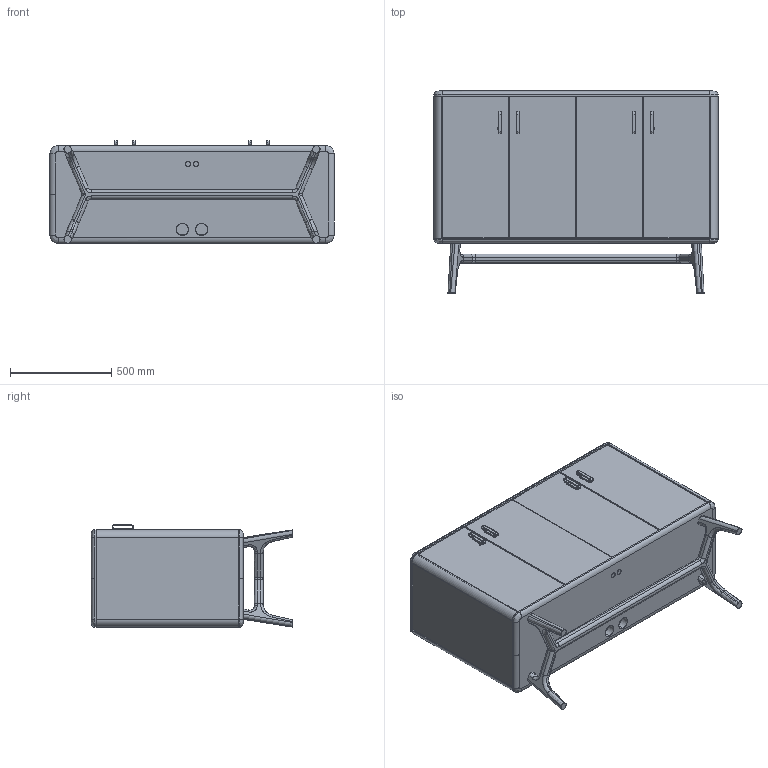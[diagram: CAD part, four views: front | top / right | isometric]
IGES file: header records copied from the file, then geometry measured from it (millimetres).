
Start section: SolidWorks IGES file using analytic representation for surfaces
Global section: file name: C:\Users\Ruben.BDLE\Box\Neri & Hu\785_786 Solo Wood Cabinets and Side Table\sales related\3D IGES\785TDD_Solo_ Wood Cabinet_va_prmt.IGS; native system: SolidWorks 2016; preprocessor: SolidWorks 2016; author: Ruben; date: 200615.114245; units: millimetre
Bounding box: 1400 x 995 x 504.38 mm (x, y, z)
Surface area: 14246474.7 mm2 (no closed solid volume)
Topology: 0 solids, 0 shells, 1431 faces, 17390 edges, 17334 vertices
Faces by surface type: bspline 808, revolution 623
